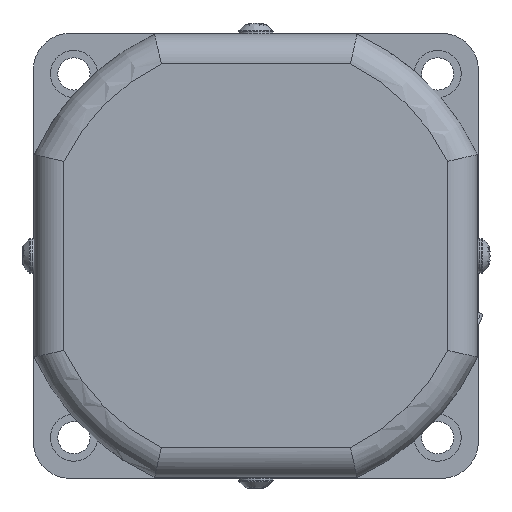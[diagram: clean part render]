
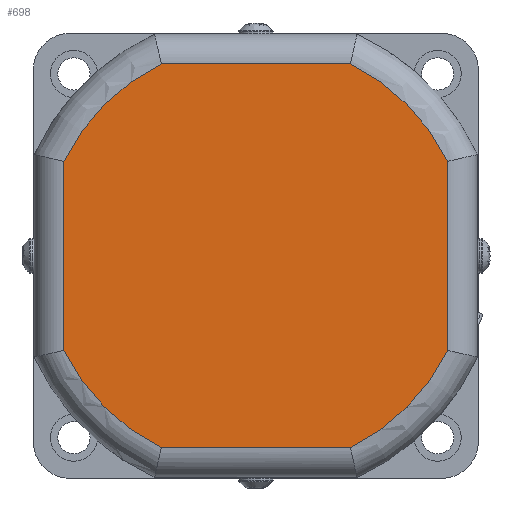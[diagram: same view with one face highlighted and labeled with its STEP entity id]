
A CAD part, left-side view. The second image highlights one B-rep face of the part: STEP entity #698.
In plain terms, the highlighted planar face has unit normal (-1, 0, 0).
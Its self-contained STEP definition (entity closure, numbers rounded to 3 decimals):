
#356=CARTESIAN_POINT('',(-23.,-38.8,19.108));
#357=VERTEX_POINT('',#356);
#382=CARTESIAN_POINT('',(-23.,-19.108,38.8));
#383=VERTEX_POINT('',#382);
#401=CARTESIAN_POINT('',(-23.,0.,0.0));
#402=DIRECTION('',(1.0,0.0,0.0));
#403=DIRECTION('',(0.0,-0.707,0.707));
#404=AXIS2_PLACEMENT_3D('',#401,#402,#403);
#405=CIRCLE('',#404,43.25);
#406=EDGE_CURVE('',#383,#357,#405,.T.);
#416=CARTESIAN_POINT('',(-23.,19.108,38.8));
#417=VERTEX_POINT('',#416);
#435=CARTESIAN_POINT('',(-23.,19.108,38.8));
#436=DIRECTION('',(0.0,-1.0,0.0));
#437=VECTOR('',#436,38.216);
#438=LINE('',#435,#437);
#439=EDGE_CURVE('',#417,#383,#438,.T.);
#451=CARTESIAN_POINT('',(-23.,-38.8,-19.108));
#452=VERTEX_POINT('',#451);
#472=CARTESIAN_POINT('',(-23.,-38.8,19.108));
#473=DIRECTION('',(0.0,0.0,-1.0));
#474=VECTOR('',#473,38.216);
#475=LINE('',#472,#474);
#476=EDGE_CURVE('',#357,#452,#475,.T.);
#486=CARTESIAN_POINT('',(-23.,38.8,19.108));
#487=VERTEX_POINT('',#486);
#505=CARTESIAN_POINT('',(-23.,0.,0.0));
#506=DIRECTION('',(1.0,0.0,0.0));
#507=DIRECTION('',(0.0,0.707,0.707));
#508=AXIS2_PLACEMENT_3D('',#505,#506,#507);
#509=CIRCLE('',#508,43.25);
#510=EDGE_CURVE('',#487,#417,#509,.T.);
#528=CARTESIAN_POINT('',(-23.,-19.108,-38.8));
#529=VERTEX_POINT('',#528);
#555=CARTESIAN_POINT('',(-23.,0.,0.0));
#556=DIRECTION('',(1.0,0.0,0.0));
#557=DIRECTION('',(0.0,-0.707,-0.707));
#558=AXIS2_PLACEMENT_3D('',#555,#556,#557);
#559=CIRCLE('',#558,43.25);
#560=EDGE_CURVE('',#452,#529,#559,.T.);
#570=CARTESIAN_POINT('',(-23.,38.8,-19.108));
#571=VERTEX_POINT('',#570);
#589=CARTESIAN_POINT('',(-23.,38.8,-19.108));
#590=DIRECTION('',(0.0,0.0,1.0));
#591=VECTOR('',#590,38.216);
#592=LINE('',#589,#591);
#593=EDGE_CURVE('',#571,#487,#592,.T.);
#605=CARTESIAN_POINT('',(-23.,19.108,-38.8));
#606=VERTEX_POINT('',#605);
#626=CARTESIAN_POINT('',(-23.,-19.108,-38.8));
#627=DIRECTION('',(0.0,1.0,0.0));
#628=VECTOR('',#627,38.216);
#629=LINE('',#626,#628);
#630=EDGE_CURVE('',#529,#606,#629,.T.);
#641=CARTESIAN_POINT('',(-23.,0.,0.0));
#642=DIRECTION('',(1.0,0.0,0.0));
#643=DIRECTION('',(0.0,0.707,-0.707));
#644=AXIS2_PLACEMENT_3D('',#641,#642,#643);
#645=CIRCLE('',#644,43.25);
#646=EDGE_CURVE('',#606,#571,#645,.T.);
#683=CARTESIAN_POINT('',(-23.,0.,0.0));
#684=DIRECTION('',(1.0,0.0,0.0));
#685=DIRECTION('',(0.0,0.0,-1.0));
#686=AXIS2_PLACEMENT_3D('',#683,#684,#685);
#687=PLANE('',#686);
#688=ORIENTED_EDGE('',*,*,#630,.F.);
#689=ORIENTED_EDGE('',*,*,#560,.F.);
#690=ORIENTED_EDGE('',*,*,#476,.F.);
#691=ORIENTED_EDGE('',*,*,#406,.F.);
#692=ORIENTED_EDGE('',*,*,#439,.F.);
#693=ORIENTED_EDGE('',*,*,#510,.F.);
#694=ORIENTED_EDGE('',*,*,#593,.F.);
#695=ORIENTED_EDGE('',*,*,#646,.F.);
#696=EDGE_LOOP('',(#688,#689,#690,#691,#692,#693,#694,#695));
#697=FACE_OUTER_BOUND('',#696,.T.);
#698=ADVANCED_FACE('',(#697),#687,.F.);
